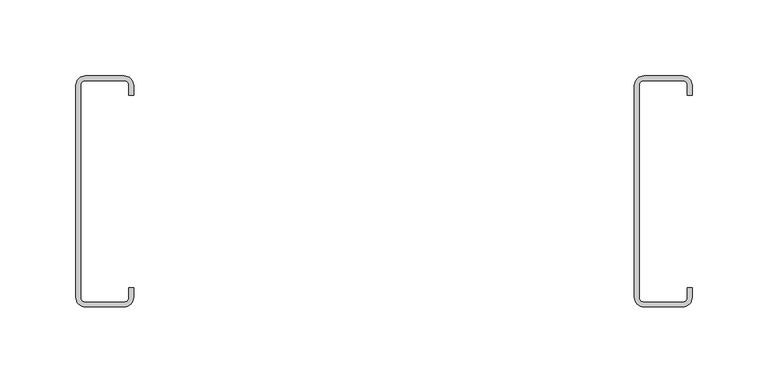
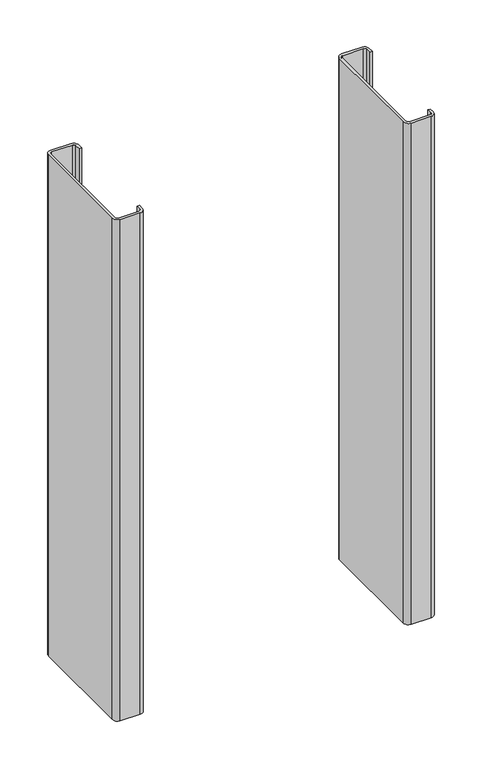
"""IFC4 building model written with IfcOpenShell, lengths in millimetres: proxy geometry, CRAi Generic Model Metal Stud Array : CRAi Generic Model Metal Stud Array."""

from ifc_helpers import new_model, si_unit, point, frame_2d, origin, origin_with_axes, place, context, project, spatial, polyline, circle_curve, trimmed, segment, composite_curve, outline, extrude, source, transform, mapped, element, save


def generic_models_9a115d84(model_context):
    return source(origin(), model_context, "Body", "SweptSolid", [
        extrude(outline(composite_curve([segment(polyline([(203.2, 63.5), (200.025, 63.5), (200.025, 70.2679713)]), True, "CONTINUOUS"), segment(trimmed(circle_curve(frame_2d((196.85, 69.85)), 3.2023936), [point((200.025, 70.2679713))], [point((197.2679713, 73.025))], True, "CARTESIAN"), True, "CONTINUOUS"), segment(polyline([(197.2679713, 73.025), (171.0320287, 73.025)]), True, "CONTINUOUS"), segment(trimmed(circle_curve(frame_2d((171.45, 69.85)), 3.2023936), [point((171.0320287, 73.025))], [point((168.275, 70.2679713))], True, "CARTESIAN"), True, "CONTINUOUS"), segment(polyline([(168.275, 70.2679713), (168.275, -70.2679713)]), True, "CONTINUOUS"), segment(trimmed(circle_curve(frame_2d((171.45, -69.85)), 3.2023936), [point((168.275, -70.2679713))], [point((171.0320287, -73.025))], True, "CARTESIAN"), True, "CONTINUOUS"), segment(polyline([(171.0320287, -73.025), (197.2679713, -73.025)]), True, "CONTINUOUS"), segment(trimmed(circle_curve(frame_2d((196.85, -69.85)), 3.2023936), [point((197.2679713, -73.025))], [point((200.025, -70.2679713))], True, "CARTESIAN"), True, "CONTINUOUS"), segment(polyline([(200.025, -70.2679713), (200.025, -63.5), (203.2, -63.5), (203.2, -69.85)]), True, "CONTINUOUS"), segment(trimmed(circle_curve(frame_2d((196.85, -69.85)), 6.35), [point((203.2, -69.85))], [point((196.85, -76.2))], False, "CARTESIAN"), True, "CONTINUOUS"), segment(polyline([(196.85, -76.2), (171.45, -76.2)]), True, "CONTINUOUS"), segment(trimmed(circle_curve(frame_2d((171.45, -69.85)), 6.35), [point((171.45, -76.2))], [point((165.1, -69.85))], False, "CARTESIAN"), True, "CONTINUOUS"), segment(polyline([(165.1, -69.85), (165.1, 69.85)]), True, "CONTINUOUS"), segment(trimmed(circle_curve(frame_2d((171.45, 69.85)), 6.35), [point((165.1, 69.85))], [point((171.45, 76.2))], False, "CARTESIAN"), True, "CONTINUOUS"), segment(polyline([(171.45, 76.2), (196.85, 76.2)]), True, "CONTINUOUS"), segment(trimmed(circle_curve(frame_2d((196.85, 69.85)), 6.35), [point((196.85, 76.2))], [point((203.2, 69.85))], False, "CARTESIAN"), True, "CONTINUOUS"), segment(polyline([(203.2, 69.85), (203.2, 63.5)]), True, "CONTINUOUS")], self_intersect=False)), origin_with_axes(), (0.0, 0.0, 1.0), 669.925),
        extrude(outline(composite_curve([segment(polyline([(-165.1, 63.5), (-168.275, 63.5), (-168.275, 70.2679713)]), True, "CONTINUOUS"), segment(trimmed(circle_curve(frame_2d((-171.45, 69.85)), 3.2023936), [point((-168.275, 70.2679713))], [point((-171.0320287, 73.025))], True, "CARTESIAN"), True, "CONTINUOUS"), segment(polyline([(-171.0320287, 73.025), (-197.2679713, 73.025)]), True, "CONTINUOUS"), segment(trimmed(circle_curve(frame_2d((-196.85, 69.85)), 3.2023936), [point((-197.2679713, 73.025))], [point((-200.025, 70.2679713))], True, "CARTESIAN"), True, "CONTINUOUS"), segment(polyline([(-200.025, 70.2679713), (-200.025, -70.2679713)]), True, "CONTINUOUS"), segment(trimmed(circle_curve(frame_2d((-196.85, -69.85)), 3.2023936), [point((-200.025, -70.2679713))], [point((-197.2679713, -73.025))], True, "CARTESIAN"), True, "CONTINUOUS"), segment(polyline([(-197.2679713, -73.025), (-171.0320287, -73.025)]), True, "CONTINUOUS"), segment(trimmed(circle_curve(frame_2d((-171.45, -69.85)), 3.2023936), [point((-171.0320287, -73.025))], [point((-168.275, -70.2679713))], True, "CARTESIAN"), True, "CONTINUOUS"), segment(polyline([(-168.275, -70.2679713), (-168.275, -63.5), (-165.1, -63.5), (-165.1, -69.85)]), True, "CONTINUOUS"), segment(trimmed(circle_curve(frame_2d((-171.45, -69.85)), 6.35), [point((-165.1, -69.85))], [point((-171.45, -76.2))], False, "CARTESIAN"), True, "CONTINUOUS"), segment(polyline([(-171.45, -76.2), (-196.85, -76.2)]), True, "CONTINUOUS"), segment(trimmed(circle_curve(frame_2d((-196.85, -69.85)), 6.35), [point((-196.85, -76.2))], [point((-203.2, -69.85))], False, "CARTESIAN"), True, "CONTINUOUS"), segment(polyline([(-203.2, -69.85), (-203.2, 69.85)]), True, "CONTINUOUS"), segment(trimmed(circle_curve(frame_2d((-196.85, 69.85)), 6.35), [point((-203.2, 69.85))], [point((-196.85, 76.2))], False, "CARTESIAN"), True, "CONTINUOUS"), segment(polyline([(-196.85, 76.2), (-171.45, 76.2)]), True, "CONTINUOUS"), segment(trimmed(circle_curve(frame_2d((-171.45, 69.85)), 6.35), [point((-171.45, 76.2))], [point((-165.1, 69.85))], False, "CARTESIAN"), True, "CONTINUOUS"), segment(polyline([(-165.1, 69.85), (-165.1, 63.5)]), True, "CONTINUOUS")], self_intersect=False)), origin_with_axes(), (0.0, 0.0, 1.0), 669.925),
    ])


if __name__ == "__main__":
    model = new_model("IFC4")
    model_context = context("Model", 3, world=origin())
    ifc_project = project(units=[si_unit("LENGTHUNIT", "METRE", prefix="MILLI")], contexts=[model_context])
    site = spatial("IfcSite", under=ifc_project)
    building = spatial("IfcBuilding", under=site)
    placement = place(None, origin())
    generic_models_shape = generic_models_9a115d84(model_context)
    element("IfcBuildingElementProxy", 1, Name="CRAi Generic Model Metal Stud Array : CRAi Generic Model Metal Stud Array", ObjectType="CRAi Generic Model Metal Stud Array : CRAi Generic Model Metal Stud Array", at=placement, inside=building, context=model_context, shape_type="MappedRepresentation", body=[
        mapped(generic_models_shape, transform((0.0, 0.0, 0.0), x_axis=(1.0, 0.0, 0.0), y_axis=(0.0, 1.0, 0.0), z_axis=(0.0, 0.0, 1.0))),
    ])
    save(model, "model.ifc")
